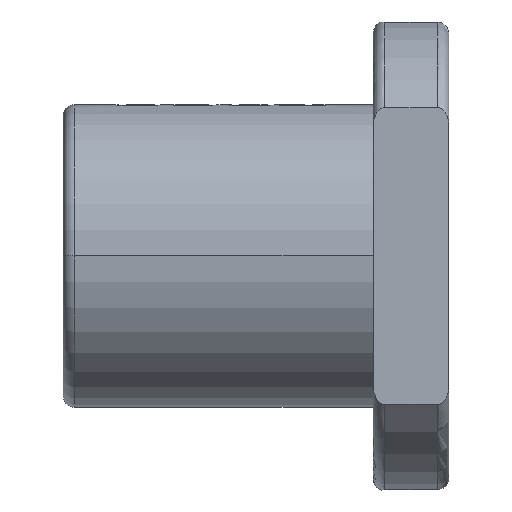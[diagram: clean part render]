
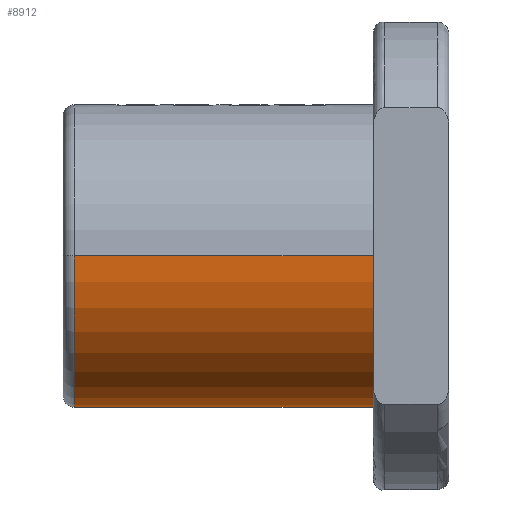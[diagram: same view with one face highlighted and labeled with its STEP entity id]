
A CAD part, front view. The second image highlights one B-rep face of the part: STEP entity #8912.
In plain terms, the highlighted cylindrical face has radius 20 mm (diameter 40 mm), a partial arc.
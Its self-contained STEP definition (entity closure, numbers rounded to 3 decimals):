
#249 = ORIENTED_EDGE ( 'NONE', *, *, #5054, .F. ) ;
#646 = ORIENTED_EDGE ( 'NONE', *, *, #9867, .T. ) ;
#898 = CARTESIAN_POINT ( 'NONE',  ( -25., 0., 0. ) ) ;
#1039 = CARTESIAN_POINT ( 'NONE',  ( -25., -20., 0. ) ) ;
#1403 = VERTEX_POINT ( 'NONE', #1039 ) ;
#1454 = DIRECTION ( 'NONE',  ( 0., 1., 0. ) ) ;
#1779 = CARTESIAN_POINT ( 'NONE',  ( -64.5, 0., 0. ) ) ;
#2353 = DIRECTION ( 'NONE',  ( 0., 1., 0. ) ) ;
#2500 = CARTESIAN_POINT ( 'NONE',  ( -25., 20., 0. ) ) ;
#2974 = EDGE_CURVE ( 'NONE', #9894, #1403, #7744, .T. ) ;
#3047 = VECTOR ( 'NONE', #8527, 1000. ) ;
#3179 = CARTESIAN_POINT ( 'NONE',  ( -64.5, 20., 0. ) ) ;
#3548 = DIRECTION ( 'NONE',  ( -1., 0., 0. ) ) ;
#4002 = FACE_OUTER_BOUND ( 'NONE', #8215, .T. ) ;
#4617 = DIRECTION ( 'NONE',  ( 1., 0., 0. ) ) ;
#5054 = EDGE_CURVE ( 'NONE', #11024, #1403, #8072, .T. ) ;
#5540 = DIRECTION ( 'NONE',  ( 1., 0., 0. ) ) ;
#6005 = LINE ( 'NONE', #3179, #3047 ) ;
#6144 = ORIENTED_EDGE ( 'NONE', *, *, #2974, .T. ) ;
#6368 = CARTESIAN_POINT ( 'NONE',  ( -64.5, 20., 0. ) ) ;
#6583 = DIRECTION ( 'NONE',  ( 1., 0., 0. ) ) ;
#7211 = VERTEX_POINT ( 'NONE', #6368 ) ;
#7325 = EDGE_CURVE ( 'NONE', #11024, #7211, #8257, .T. ) ;
#7435 = CYLINDRICAL_SURFACE ( 'NONE', #8800, 20. ) ;
#7744 = CIRCLE ( 'NONE', #8801, 20. ) ;
#8072 = LINE ( 'NONE', #10583, #10415 ) ;
#8215 = EDGE_LOOP ( 'NONE', ( #249, #8831, #646, #6144 ) ) ;
#8257 = CIRCLE ( 'NONE', #10775, 20. ) ;
#8527 = DIRECTION ( 'NONE',  ( 1., 0., 0. ) ) ;
#8673 = CARTESIAN_POINT ( 'NONE',  ( -64.5, -20., 0. ) ) ;
#8800 = AXIS2_PLACEMENT_3D ( 'NONE', #10839, #6583, #1454 ) ;
#8801 = AXIS2_PLACEMENT_3D ( 'NONE', #898, #3548, #2353 ) ;
#8831 = ORIENTED_EDGE ( 'NONE', *, *, #7325, .T. ) ;
#8912 = ADVANCED_FACE ( 'NONE', ( #4002 ), #7435, .T. ) ;
#9867 = EDGE_CURVE ( 'NONE', #7211, #9894, #6005, .T. ) ;
#9894 = VERTEX_POINT ( 'NONE', #2500 ) ;
#10415 = VECTOR ( 'NONE', #5540, 1000. ) ;
#10583 = CARTESIAN_POINT ( 'NONE',  ( -64.5, -20., 0. ) ) ;
#10681 = DIRECTION ( 'NONE',  ( 0., 1., 0. ) ) ;
#10775 = AXIS2_PLACEMENT_3D ( 'NONE', #1779, #4617, #10681 ) ;
#10839 = CARTESIAN_POINT ( 'NONE',  ( -64.5, 0., 0. ) ) ;
#11024 = VERTEX_POINT ( 'NONE', #8673 ) ;
